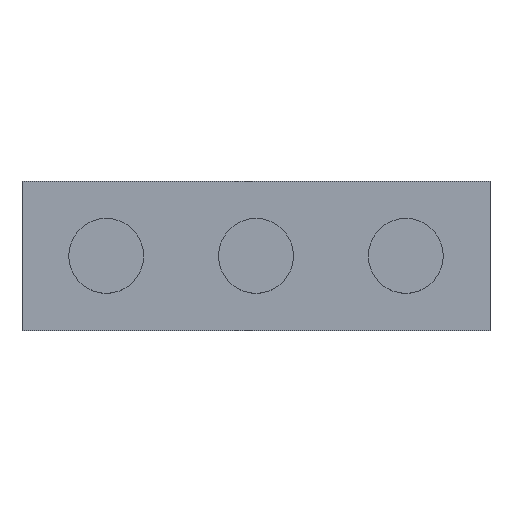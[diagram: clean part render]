
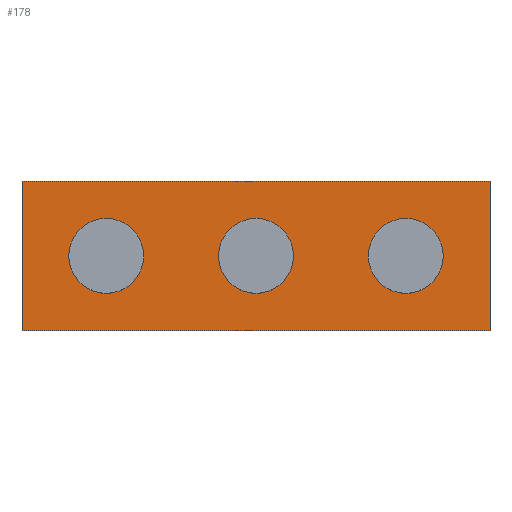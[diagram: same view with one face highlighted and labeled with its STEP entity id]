
A CAD part, top view. The second image highlights one B-rep face of the part: STEP entity #178.
In plain terms, the highlighted planar face has unit normal (0, 0, 1).
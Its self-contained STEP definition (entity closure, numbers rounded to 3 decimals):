
#178 = ADVANCED_FACE('',(#179),#213,.T.);
#179 = FACE_BOUND('',#180,.T.);
#180 = EDGE_LOOP('',(#181,#191,#199,#207));
#181 = ORIENTED_EDGE('',*,*,#182,.T.);
#182 = EDGE_CURVE('',#183,#185,#187,.T.);
#183 = VERTEX_POINT('',#184);
#184 = CARTESIAN_POINT('',(-125.,-40.,3.));
#185 = VERTEX_POINT('',#186);
#186 = CARTESIAN_POINT('',(125.,-40.,3.));
#187 = LINE('',#188,#189);
#188 = CARTESIAN_POINT('',(-125.,-40.,3.));
#189 = VECTOR('',#190,1.);
#190 = DIRECTION('',(1.,0.,0.));
#191 = ORIENTED_EDGE('',*,*,#192,.T.);
#192 = EDGE_CURVE('',#185,#193,#195,.T.);
#193 = VERTEX_POINT('',#194);
#194 = CARTESIAN_POINT('',(125.,40.,3.));
#195 = LINE('',#196,#197);
#196 = CARTESIAN_POINT('',(125.,-40.,3.));
#197 = VECTOR('',#198,1.);
#198 = DIRECTION('',(0.,1.,0.));
#199 = ORIENTED_EDGE('',*,*,#200,.T.);
#200 = EDGE_CURVE('',#193,#201,#203,.T.);
#201 = VERTEX_POINT('',#202);
#202 = CARTESIAN_POINT('',(-125.,40.,
    3.));
#203 = LINE('',#204,#205);
#204 = CARTESIAN_POINT('',(125.,40.,3.));
#205 = VECTOR('',#206,1.);
#206 = DIRECTION('',(-1.,0.,0.));
#207 = ORIENTED_EDGE('',*,*,#208,.T.);
#208 = EDGE_CURVE('',#201,#183,#209,.T.);
#209 = LINE('',#210,#211);
#210 = CARTESIAN_POINT('',(-125.,40.,
    3.));
#211 = VECTOR('',#212,1.);
#212 = DIRECTION('',(0.,-1.,0.));
#213 = PLANE('',#214);
#214 = AXIS2_PLACEMENT_3D('',#215,#216,#217);
#215 = CARTESIAN_POINT('',(40.,-40.,3.));
#216 = DIRECTION('',(0.,0.,1.));
#217 = DIRECTION('',(1.,0.,-0.));
